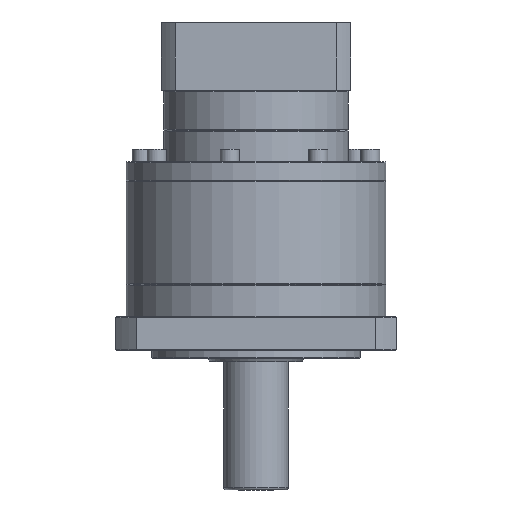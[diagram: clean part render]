
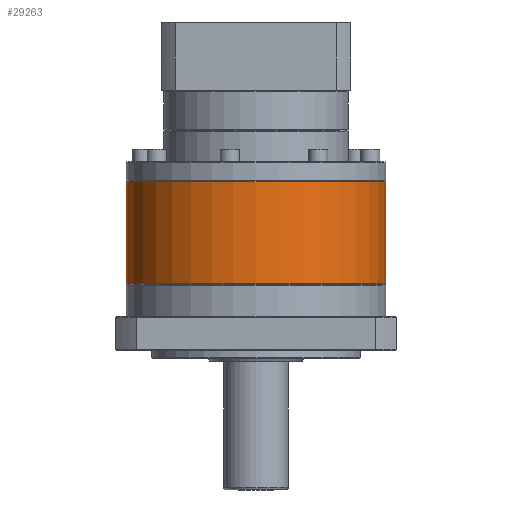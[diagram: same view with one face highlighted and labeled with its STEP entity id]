
A CAD part, front view. The second image highlights one B-rep face of the part: STEP entity #29263.
In plain terms, the highlighted cylindrical face has radius 81 mm (diameter 162 mm), a partial arc.
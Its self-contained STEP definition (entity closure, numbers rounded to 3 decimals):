
#7081 = CARTESIAN_POINT ( 'NONE',  ( -226.481, 104.821, -85.397 ) ) ;
#11994 = LINE ( 'NONE', #50191, #116678 ) ;
#20242 = ORIENTED_EDGE ( 'NONE', *, *, #67318, .T. ) ;
#22129 = CIRCLE ( 'NONE', #23446, 81. ) ;
#22912 = AXIS2_PLACEMENT_3D ( 'NONE', #121264, #113589, #47834 ) ;
#23446 = AXIS2_PLACEMENT_3D ( 'NONE', #45424, #67498, #76667 ) ;
#29263 = ADVANCED_FACE ( 'NONE', ( #119011 ), #33260, .T. ) ;
#33260 = CYLINDRICAL_SURFACE ( 'NONE', #22912, 81. ) ;
#33262 = CARTESIAN_POINT ( 'NONE',  ( -226.481, 104.821, -148.897 ) ) ;
#35565 = ORIENTED_EDGE ( 'NONE', *, *, #53824, .F. ) ;
#35605 = AXIS2_PLACEMENT_3D ( 'NONE', #105186, #116213, #61533 ) ;
#44136 = VERTEX_POINT ( 'NONE', #132368 ) ;
#45424 = CARTESIAN_POINT ( 'NONE',  ( -145.481, 104.821, -85.397 ) ) ;
#47834 = DIRECTION ( 'NONE',  ( -1., 0., 0. ) ) ;
#50191 = CARTESIAN_POINT ( 'NONE',  ( -64.481, 104.821, -84.897 ) ) ;
#52627 = EDGE_CURVE ( 'NONE', #142391, #44136, #54589, .T. ) ;
#53824 = EDGE_CURVE ( 'NONE', #131768, #44136, #11994, .T. ) ;
#54589 = CIRCLE ( 'NONE', #35605, 81. ) ;
#61533 = DIRECTION ( 'NONE',  ( -1., 0., 0. ) ) ;
#65437 = ORIENTED_EDGE ( 'NONE', *, *, #52627, .T. ) ;
#66237 = CARTESIAN_POINT ( 'NONE',  ( -226.481, 104.821, -84.897 ) ) ;
#67318 = EDGE_CURVE ( 'NONE', #83918, #142391, #100578, .T. ) ;
#67498 = DIRECTION ( 'NONE',  ( 0., 0., -1. ) ) ;
#76667 = DIRECTION ( 'NONE',  ( -1., 0., 0. ) ) ;
#83918 = VERTEX_POINT ( 'NONE', #7081 ) ;
#94800 = DIRECTION ( 'NONE',  ( 0., 0., -1. ) ) ;
#98391 = DIRECTION ( 'NONE',  ( 0., 0., -1. ) ) ;
#99506 = CARTESIAN_POINT ( 'NONE',  ( -64.481, 104.821, -85.397 ) ) ;
#100578 = LINE ( 'NONE', #66237, #122896 ) ;
#105186 = CARTESIAN_POINT ( 'NONE',  ( -145.481, 104.821, -148.897 ) ) ;
#109862 = EDGE_CURVE ( 'NONE', #131768, #83918, #22129, .T. ) ;
#113589 = DIRECTION ( 'NONE',  ( 0., 0., -1. ) ) ;
#115085 = EDGE_LOOP ( 'NONE', ( #35565, #121348, #20242, #65437 ) ) ;
#116213 = DIRECTION ( 'NONE',  ( 0., 0., 1. ) ) ;
#116678 = VECTOR ( 'NONE', #94800, 1000. ) ;
#119011 = FACE_OUTER_BOUND ( 'NONE', #115085, .T. ) ;
#121264 = CARTESIAN_POINT ( 'NONE',  ( -145.481, 104.821, -84.897 ) ) ;
#121348 = ORIENTED_EDGE ( 'NONE', *, *, #109862, .T. ) ;
#122896 = VECTOR ( 'NONE', #98391, 1000. ) ;
#131768 = VERTEX_POINT ( 'NONE', #99506 ) ;
#132368 = CARTESIAN_POINT ( 'NONE',  ( -64.481, 104.821, -148.897 ) ) ;
#142391 = VERTEX_POINT ( 'NONE', #33262 ) ;
